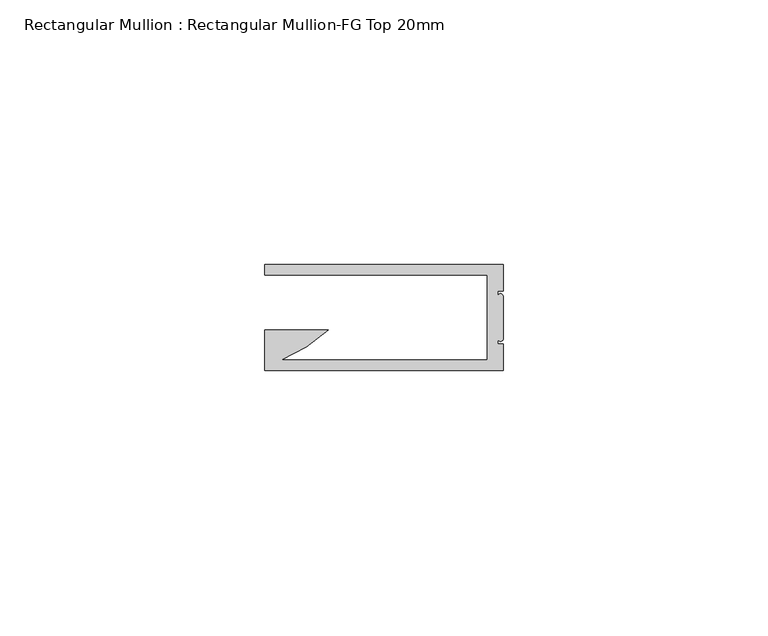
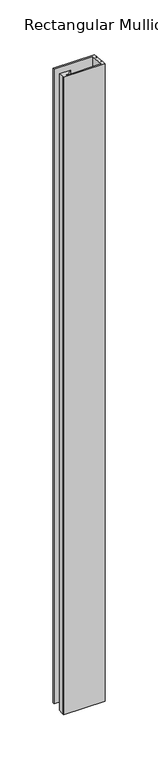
"""IFC4 building model written with IfcOpenShell, lengths in millimetres: member geometry, Rectangular Mullion : Rectangular Mullion-FG Top 20mm."""

from ifc_helpers import new_model, si_unit, frame, origin, place, context, project, spatial, ellipse_curve, source, transform, mapped, element, save
from ifc_brep_helpers import plane_surface, cylinder_surface, advanced_brep


def rectangular_mullion_rectangular_mullion_fg_top_20mm_3f20b25a(model_context):
    return source(origin(), model_context, "Body", "AdvancedBrep", [
        advanced_brep(
        [(0.0, -0.002, -45.1911515), (0.0, -5.002, -44.7295806), (0.0, -5.002, -774.407727), (0.0, -0.002, -773.9461561), (-45.0, -0.002, -45.1911515), (-45.0, -0.002, -773.9461561), (-45.0, -2.002, -45.0065232), (-45.0, -2.002, -774.1307845), (-3.0, -2.002, -45.0065232), (-3.0, -2.002, -774.1307845), (-3.0, -18.002, -43.5294963), (-3.0, -18.002, -775.6078113), (-41.8651614, -18.002, -43.5294963), (-41.8651614, -18.002, -775.6078113), (-33.0474856, -12.382, -44.048302), (-33.0474856, -12.382, -775.0890056), (-45.0, -12.382, -44.048302), (-45.0, -12.382, -775.0890056), (-45.0, -18.002, -43.5294963), (-45.0, -18.002, -775.6078113), (-45.0, -20.002, -43.344868), (-45.0, -20.002, -775.7924397), (0.0, -20.002, -43.344868), (0.0, -20.002, -775.7924397), (0.0, -15.002, -43.8064389), (0.0, -15.002, -775.3308688), (-1.0, -15.002, -43.8064389), (-1.0, -15.002, -775.3308688), (-1.0, -14.002, -43.898753), (-1.0, -14.002, -775.2385546), (0.0, -14.002, -43.898753), (0.0, -14.002, -775.2385546), (0.0, -6.002, -44.6372665), (0.0, -6.002, -774.5000412), (-1.0, -6.002, -44.6372665), (-1.0, -6.002, -774.5000412), (-1.0, -5.002, -44.7295806), (-1.0, -5.002, -774.407727)],
        [
            (0, 1),
            (1, 2),
            (2, 3),
            (3, 0),
            (4, 0),
            (3, 5),
            (5, 4),
            (6, 4),
            (5, 7),
            (7, 6),
            (8, 6),
            (7, 9),
            (9, 8),
            (10, 8),
            (9, 11),
            (11, 10),
            (12, 10),
            (11, 13),
            (13, 12),
            (14, 12, ellipse_curve(frame((-52.4160523, 8.2795369, -45.9556548), z_axis=(0.0, -0.09192332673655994, -0.9957660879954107), x_axis=(0.0, -0.9957660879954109, 0.09192332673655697)), 28.4407348, 28.3203192)),
            (13, 15, ellipse_curve(frame((-52.4160523, 8.2795369, -773.1816529), z_axis=(0.0, -0.09192332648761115, 0.9957660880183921), x_axis=(0.0, 0.9957660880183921, 0.09192332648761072)), 28.4407348, 28.3203192)),
            (15, 14),
            (16, 14),
            (15, 17),
            (17, 16),
            (18, 16),
            (17, 19),
            (19, 18),
            (20, 18),
            (19, 21),
            (21, 20),
            (22, 20),
            (21, 23),
            (23, 22),
            (24, 22),
            (23, 25),
            (25, 24),
            (26, 24),
            (25, 27),
            (27, 26),
            (28, 26),
            (27, 29),
            (29, 28),
            (30, 28, ellipse_curve(frame((-0.5, -14.002, -43.898753), z_axis=(0.0, -0.09192332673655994, -0.9957660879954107), x_axis=(0.0, -0.9957660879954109, 0.09192332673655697)), 0.502126, 0.5)),
            (29, 31, ellipse_curve(frame((-0.5, -14.002, -775.2385546), z_axis=(0.0, -0.09192332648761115, 0.9957660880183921), x_axis=(0.0, 0.9957660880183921, 0.09192332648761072)), 0.502126, 0.5)),
            (31, 30),
            (32, 30),
            (31, 33),
            (33, 32),
            (34, 32, ellipse_curve(frame((-0.5, -6.002, -44.6372665), z_axis=(0.0, -0.09192332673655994, -0.9957660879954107), x_axis=(0.0, -0.9957660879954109, 0.09192332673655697)), 0.502126, 0.5)),
            (33, 35, ellipse_curve(frame((-0.5, -6.002, -774.5000412), z_axis=(0.0, -0.09192332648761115, 0.9957660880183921), x_axis=(0.0, 0.9957660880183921, 0.09192332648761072)), 0.502126, 0.5)),
            (35, 34),
            (36, 34),
            (35, 37),
            (37, 36),
            (1, 36),
            (37, 2),
        ],
        [
            plane_surface(frame((0.0, -5.002, 0.0), z_axis=(1.0, 0.0, 0.0), x_axis=(0.0, 0.0, -1.0))),
            plane_surface(frame((0.0, -0.002, 0.0), z_axis=(0.0, 1.0, 0.0), x_axis=(0.0, 0.0, -1.0))),
            plane_surface(frame((-45.0, -0.002, 0.0), z_axis=(-1.0, 0.0, 0.0), x_axis=(0.0, 0.0, -1.0))),
            plane_surface(frame((-45.0, -2.002, 0.0), z_axis=(0.0, -1.0, 0.0), x_axis=(0.0, 0.0, -1.0))),
            plane_surface(frame((-3.0, -2.002, 0.0), z_axis=(-1.0, 0.0, 0.0), x_axis=(0.0, 0.0, -1.0))),
            plane_surface(frame((-3.0, -18.002, 0.0), z_axis=(0.0, 1.0, 0.0), x_axis=(0.0, 0.0, -1.0))),
            cylinder_surface(frame((-52.4160523, 8.2795369, 0.0), z_axis=(0.0, 0.0, 1.0), x_axis=(1.0, 0.0, 0.0)), 28.3203192),
            plane_surface(frame((-33.0474856, -12.382, 0.0), z_axis=(0.0, 1.0, 0.0), x_axis=(0.0, 0.0, -1.0))),
            plane_surface(frame((-45.0, -12.382, 0.0), z_axis=(-1.0, 0.0, 0.0), x_axis=(0.0, 0.0, -1.0))),
            plane_surface(frame((-45.0, -18.002, 0.0), z_axis=(-1.0, 0.0, 0.0), x_axis=(0.0, 0.0, -1.0))),
            plane_surface(frame((-45.0, -20.002, 0.0), z_axis=(0.0, -1.0, 0.0), x_axis=(0.0, 0.0, -1.0))),
            plane_surface(frame((0.0, -20.002, 0.0), z_axis=(1.0, 0.0, 0.0), x_axis=(0.0, 0.0, -1.0))),
            plane_surface(frame((0.0, -15.002, 0.0), z_axis=(0.0, 1.0, 0.0), x_axis=(0.0, 0.0, -1.0))),
            plane_surface(frame((-1.0, -15.002, 0.0), z_axis=(1.0, 0.0, 0.0), x_axis=(0.0, 0.0, -1.0))),
            cylinder_surface(frame((-0.5, -14.002, 0.0), z_axis=(0.0, 0.0, 1.0), x_axis=(1.0, 0.0, 0.0)), 0.5),
            plane_surface(frame((0.0, -14.002, 0.0), z_axis=(1.0, 0.0, 0.0), x_axis=(0.0, 0.0, -1.0))),
            cylinder_surface(frame((-0.5, -6.002, 0.0), z_axis=(0.0, 0.0, 1.0), x_axis=(1.0, 0.0, 0.0)), 0.5),
            plane_surface(frame((-1.0, -6.002, 0.0), z_axis=(1.0, 0.0, 0.0), x_axis=(0.0, 0.0, -1.0))),
            plane_surface(frame((-1.0, -5.002, 0.0), z_axis=(0.0, -1.0, 0.0), x_axis=(0.0, 0.0, -1.0))),
            plane_surface(frame((-93026.3454707, 91048.7145366, -8450.2784708), z_axis=(0.0, 0.09192332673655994, 0.9957660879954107), x_axis=(1.0, 0.0, 0.0))),
            plane_surface(frame((-304.8, 0.0, -773.9459715), z_axis=(0.0, 0.09192332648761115, -0.9957660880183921), x_axis=(0.0, 0.9957660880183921, 0.09192332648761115))),
        ],
        [
            (0, [[1, 2, 3, 4]]),
            (1, [[5, -4, 6, 7]]),
            (2, [[8, -7, 9, 10]]),
            (3, [[11, -10, 12, 13]]),
            (4, [[14, -13, 15, 16]]),
            (5, [[17, -16, 18, 19]]),
            (6, [[20, -19, 21, 22]]),
            (7, [[23, -22, 24, 25]]),
            (8, [[26, -25, 27, 28]]),
            (9, [[29, -28, 30, 31]]),
            (10, [[32, -31, 33, 34]]),
            (11, [[35, -34, 36, 37]]),
            (12, [[38, -37, 39, 40]]),
            (13, [[41, -40, 42, 43]]),
            (14, [[44, -43, 45, 46]]),
            (15, [[47, -46, 48, 49]]),
            (16, [[50, -49, 51, 52]]),
            (17, [[53, -52, 54, 55]]),
            (18, [[56, -55, 57, -2]]),
            (19, [[-1, -5, -8, -11, -14, -17, -20, -23, -26, -29, -32, -35, -38, -41, -44, -47, -50, -53, -56]]),
            (20, [[-57, -54, -51, -48, -45, -42, -39, -36, -33, -30, -27, -24, -21, -18, -15, -12, -9, -6, -3]]),
        ],
    ),
    ])


if __name__ == "__main__":
    model = new_model("IFC4")
    model_context = context("Model", 3, world=origin())
    ifc_project = project(units=[si_unit("LENGTHUNIT", "METRE", prefix="MILLI")], contexts=[model_context])
    site = spatial("IfcSite", under=ifc_project)
    building = spatial("IfcBuilding", under=site)
    placement = place(None, origin())
    rectangular_mullion_rectangular_mullion_fg_top_20mm_shape = rectangular_mullion_rectangular_mullion_fg_top_20mm_3f20b25a(model_context)
    element("IfcMember", 1, ObjectType="Rectangular Mullion : Rectangular Mullion-FG Top 20mm", at=placement, inside=building, context=model_context, shape_type="MappedRepresentation", body=[
        mapped(rectangular_mullion_rectangular_mullion_fg_top_20mm_shape, transform((0.0, 0.0, 0.0), x_axis=(1.0, 0.0, 0.0), y_axis=(0.0, 1.0, 0.0), z_axis=(0.0, 0.0, 1.0))),
    ])
    save(model, "model.ifc")
